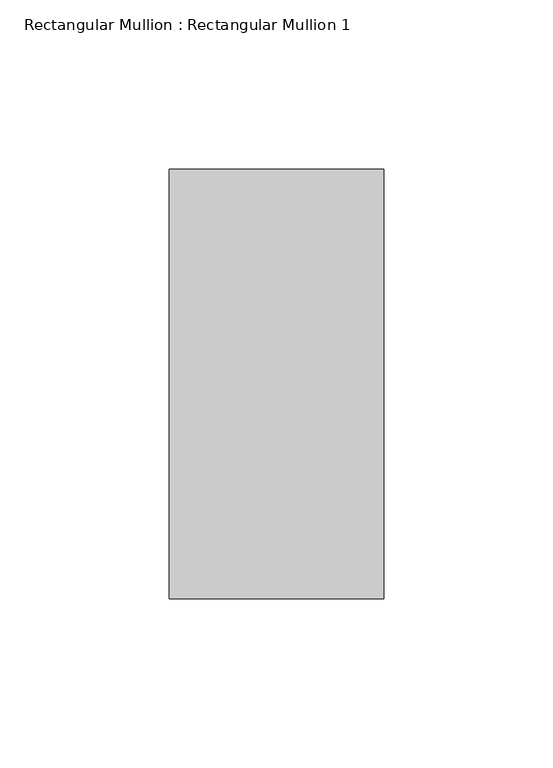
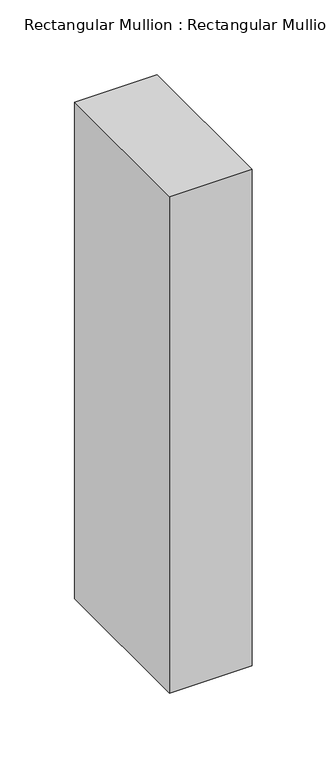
"""IFC4 building model written with IfcOpenShell, lengths in millimetres: member geometry, Rectangular Mullion : Rectangular Mullion 1."""

from ifc_helpers import new_model, si_unit, frame, origin, place, context, project, spatial, polyline, outline, extrude, source, transform, mapped, element, save


def rectangular_mullion_rectangular_mullion_1_05a5b005(model_context):
    return source(origin(), model_context, "Body", "SweptSolid", [
        extrude(outline(polyline([(31.75, 63.5), (31.75, -63.5), (-31.75, -63.5), (-31.75, 63.5), (31.75, 63.5)])), frame((0.0, 0.0, -404.9151747), z_axis=(0.0, 0.0, 1.0), x_axis=(1.0, 0.0, 0.0)), (0.0, 0.0, 1.0), 404.9151747),
    ])


if __name__ == "__main__":
    model = new_model("IFC4")
    model_context = context("Model", 3, world=origin())
    ifc_project = project(units=[si_unit("LENGTHUNIT", "METRE", prefix="MILLI")], contexts=[model_context])
    site = spatial("IfcSite", under=ifc_project)
    building = spatial("IfcBuilding", under=site)
    placement = place(None, origin())
    rectangular_mullion_rectangular_mullion_1_shape = rectangular_mullion_rectangular_mullion_1_05a5b005(model_context)
    element("IfcMember", 1, ObjectType="Rectangular Mullion : Rectangular Mullion 1", at=placement, inside=building, context=model_context, shape_type="MappedRepresentation", body=[
        mapped(rectangular_mullion_rectangular_mullion_1_shape, transform((0.0, 0.0, 0.0), x_axis=(1.0, 0.0, 0.0), y_axis=(0.0, 1.0, 0.0), z_axis=(0.0, 0.0, 1.0))),
    ])
    save(model, "model.ifc")
